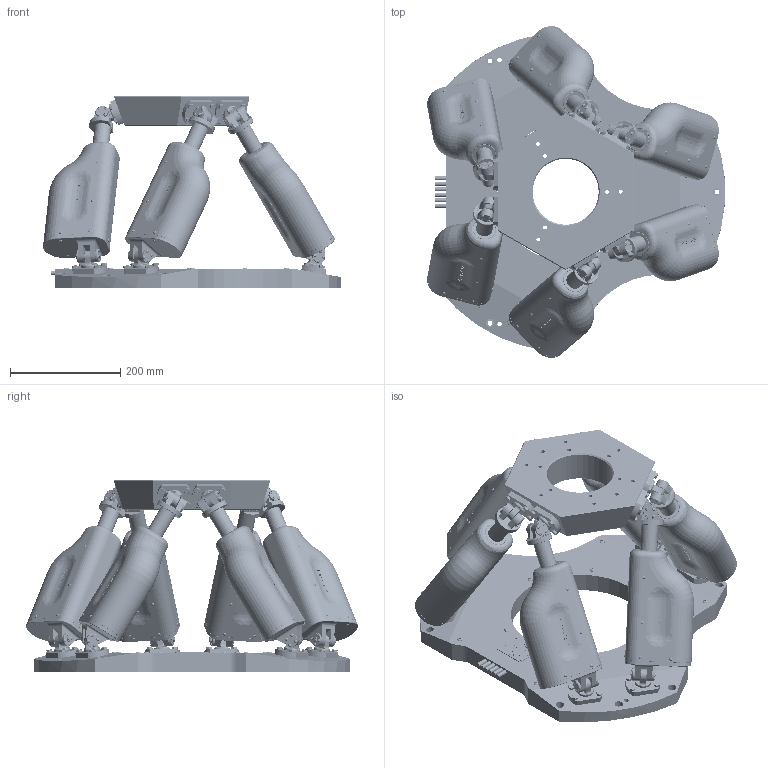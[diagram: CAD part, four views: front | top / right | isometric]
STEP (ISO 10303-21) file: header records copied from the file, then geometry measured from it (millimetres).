
FILE_DESCRIPTION (( 'STEP AP203' ), '1' );
FILE_NAME ('STD03_0001_Hexapode BREVA_B0.STEP', '2022-04-27T09:17:27', ( '' ), ( '' ), 'SwSTEP 2.0', 'SolidWorks 2021', '' );
FILE_SCHEMA (( 'CONFIG_CONTROL_DESIGN' ));
Length unit declared in the file: millimetre
Products named in the file (21): STD03_0310_Articulation Plateau; STD03_0160_Plateau Mobile; STD03_0001_Hexapode BREVA_B0; STD03_0310_Articulation Plateau_Light; STD03_0201_Actionneur_Light Droite; STD03_0101_Plateau_Plateau Fixe Light; STD03_0201_Actionneur_Light Gauche; STD03_0300_Articulation BREVA_Light Noix; STD03_0320_Articulation Noix; STD03_0300_Articulation BREVA_Light Plateau; STD03_0220_Tige Actionneur articule; STD03_0220_Tige Actionneur articule_Light; STD03_0110_Plateau Fixe; STD03_0101_Plateau_Plateau Mobile Light; STD03_0320_Articulation Noix_Light; STD03_0210_Corps Actionneur articule; STD03_0211_Corps Actionneur articule_Light
Assembly tree (52 placements, depth 5):
  STD03_0001_Hexapode BREVA_B0
    STD03_0101_Plateau_Plateau Fixe Light
      STD03_0110_Plateau Fixe
    STD03_0101_Plateau_Plateau Mobile Light
      STD03_0160_Plateau Mobile
    STD03_0201_Actionneur_Light Gauche
      STD03_0211_Corps Actionneur articule_Light
        STD03_0210_Corps Actionneur articule
      STD03_0220_Tige Actionneur articule_Light
        STD03_0220_Tige Actionneur articule
      STD03_0300_Articulation BREVA_Light Noix  x2
        STD03_0320_Articulation Noix_Light
          STD03_0320_Articulation Noix
      STD03_0300_Articulation BREVA_Light Plateau  x2
        STD03_0310_Articulation Plateau_Light
          STD03_0310_Articulation Plateau
    STD03_0201_Actionneur_Light Droite
      STD03_0211_Corps Actionneur articule_Light
        STD03_0210_Corps Actionneur articule
      STD03_0220_Tige Actionneur articule_Light
        STD03_0220_Tige Actionneur articule
      STD03_0300_Articulation BREVA_Light Noix  x2
        STD03_0320_Articulation Noix_Light
          STD03_0320_Articulation Noix
      STD03_0300_Articulation BREVA_Light Plateau  x2
        STD03_0310_Articulation Plateau_Light
          STD03_0310_Articulation Plateau
    STD03_0201_Actionneur_Light Gauche
      STD03_0211_Corps Actionneur articule_Light
        STD03_0210_Corps Actionneur articule
      STD03_0220_Tige Actionneur articule_Light
        STD03_0220_Tige Actionneur articule
      STD03_0300_Articulation BREVA_Light Noix  x2
        STD03_0320_Articulation Noix_Light
          STD03_0320_Articulation Noix
      STD03_0300_Articulation BREVA_Light Plateau  x2
        STD03_0310_Articulation Plateau_Light
          STD03_0310_Articulation Plateau
    STD03_0201_Actionneur_Light Droite
      STD03_0211_Corps Actionneur articule_Light
        STD03_0210_Corps Actionneur articule
      STD03_0220_Tige Actionneur articule_Light
        STD03_0220_Tige Actionneur articule
      STD03_0300_Articulation BREVA_Light Noix  x2
        STD03_0320_Articulation Noix_Light
          STD03_0320_Articulation Noix
      STD03_0300_Articulation BREVA_Light Plateau  x2
        STD03_0310_Articulation Plateau_Light
          STD03_0310_Articulation Plateau
    STD03_0201_Actionneur_Light Gauche
      STD03_0211_Corps Actionneur articule_Light
        STD03_0210_Corps Actionneur articule
      STD03_0220_Tige Actionneur articule_Light
        STD03_0220_Tige Actionneur articule
      STD03_0300_Articulation BREVA_Light Noix  x2
        STD03_0320_Articulation Noix_Light
          STD03_0320_Articulation Noix
      STD03_0300_Articulation BREVA_Light Plateau  x2
        STD03_0310_Articulation Plateau_Light
          STD03_0310_Articulation Plateau
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Bounding box: 541.25 x 603.13 x 350 mm (x, y, z)
Volume: 16081457.1 mm3; surface area: 1362876.5 mm2
Topology: 38 solids, 38 shells, 10334 faces, 26407 edges, 16716 vertices
Faces by surface type: plane 5001, bspline 2748, cylinder 1273, cone 868, sphere 348, torus 96
Entity records: 175278 total; most frequent: CARTESIAN_POINT 88022, ORIENTED_EDGE 19500, DIRECTION 13438, EDGE_CURVE 9750, VERTEX_POINT 6377, LINE 5646, VECTOR 5646, EDGE_LOOP 4213
